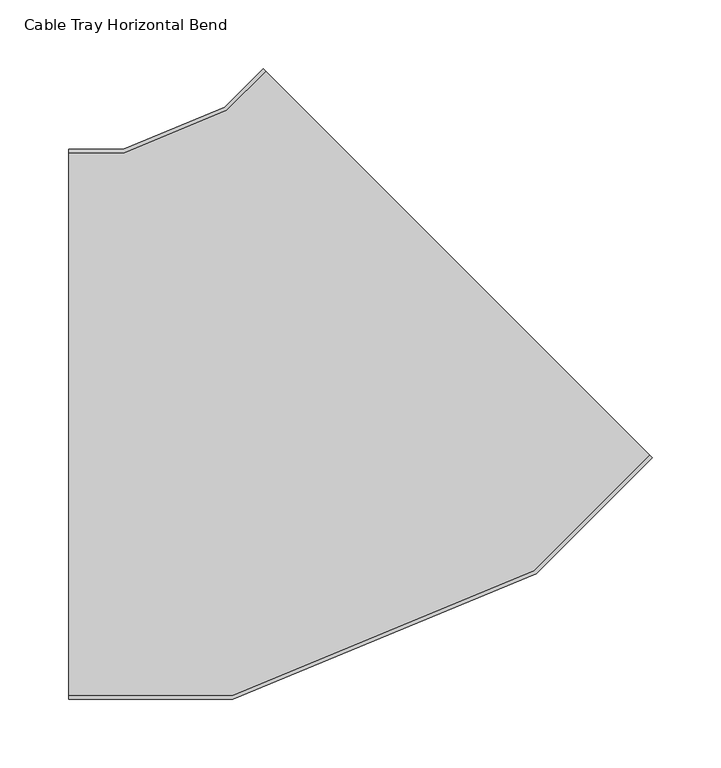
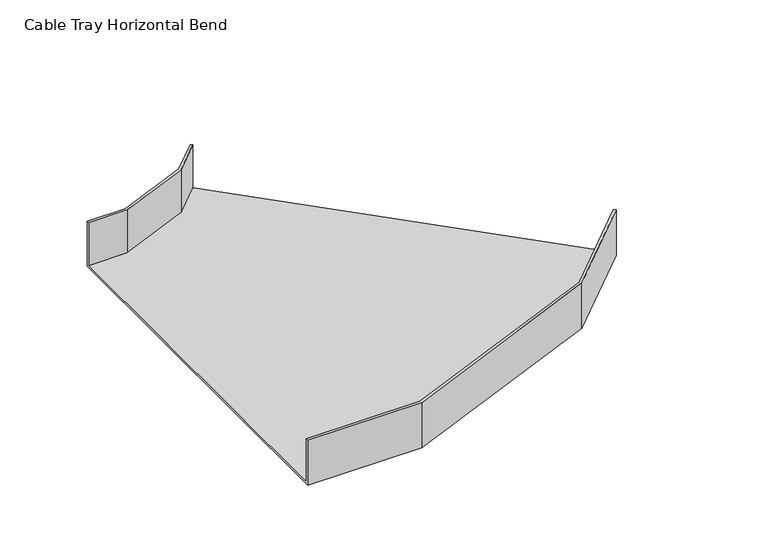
"""IFC4 building model written with IfcOpenShell, lengths in millimetres: cable carrier fitting geometry, Cable Tray Horizontal Bend : ELEC_SUB_CT_N2402."""

from ifc_helpers import new_model, si_unit, origin, place, context, project, spatial, faceted_brep, source, transform, mapped, element, save


def cable_tray_horizontal_bend_41a28480(model_context):
    return source(origin(), model_context, "Body", "Brep", [
        faceted_brep([(-165.6854249, -200.0, -25.0), (-165.6854249, -200.0, 25.0), (-165.6854249, -197.46, 25.0), (-165.6854249, -197.46, -22.46), (-165.6854249, 197.46, -22.46), (-165.6854249, 197.46, 25.0), (-165.6854249, 200.0, 25.0), (-165.6854249, 200.0, -25.0), (258.5786438, -24.2640687, -25.0), (-24.2640687, 258.5786438, -25.0), (-24.2640687, 258.5786438, 25.0), (-22.4680175, 256.7825925, 25.0), (-22.4680175, 256.7825925, -22.46), (256.7825925, -22.4680175, -22.46), (256.7825925, -22.4680175, 25.0), (258.5786438, -24.2640687, 25.0), (-46.3380045, -200.0, -25.0), (-46.3380045, -200.0, 25.0), (174.1872735, -108.655439, 25.0), (172.748479, -106.502131, 25.0), (-46.8432419, -197.46, 25.0), (-46.8432419, -197.46, -22.46), (172.748479, -106.502131, -22.46), (-50.9557311, 228.294879, -22.46), (-125.3977141, 197.46, -22.46), (-125.3977141, 197.46, 25.0), (-50.9557311, 228.294879, 25.0), (-52.3945255, 230.448187, 25.0), (-125.9029515, 200.0, 25.0), (-125.9029515, 200.0, -25.0), (-52.3945255, 230.448187, -25.0), (174.1872735, -108.655439, -25.0)], [[[0, 1, 2, 3, 4, 5, 6, 7]], [[8, 9, 10, 11, 12, 13, 14, 15]], [[1, 0, 16, 17]], [[2, 1, 17, 18, 15, 14, 19, 20]], [[3, 2, 20, 21]], [[4, 3, 21, 22, 13, 12, 23, 24]], [[5, 4, 24, 25]], [[6, 5, 25, 26, 11, 10, 27, 28]], [[7, 6, 28, 29]], [[0, 7, 29, 30, 9, 8, 31, 16]], [[17, 16, 31, 18]], [[21, 20, 19, 22]], [[25, 24, 23, 26]], [[29, 28, 27, 30]], [[18, 31, 8, 15]], [[22, 19, 14, 13]], [[26, 23, 12, 11]], [[30, 27, 10, 9]]]),
    ])


if __name__ == "__main__":
    model = new_model("IFC4")
    model_context = context("Model", 3, world=origin())
    ifc_project = project(units=[si_unit("LENGTHUNIT", "METRE", prefix="MILLI")], contexts=[model_context])
    site = spatial("IfcSite", under=ifc_project)
    building = spatial("IfcBuilding", under=site)
    placement = place(None, origin())
    cable_tray_horizontal_bend_shape = cable_tray_horizontal_bend_41a28480(model_context)
    element("IfcCableCarrierFitting", 1, ObjectType="Cable Tray Horizontal Bend : ELEC_SUB_CT_N2402", at=placement, inside=building, context=model_context, shape_type="MappedRepresentation", body=[
        mapped(cable_tray_horizontal_bend_shape, transform((0.0, 0.0, 0.0), x_axis=(1.0, 0.0, 0.0), y_axis=(0.0, 1.0, 0.0), z_axis=(0.0, 0.0, 1.0))),
    ])
    save(model, "model.ifc")
